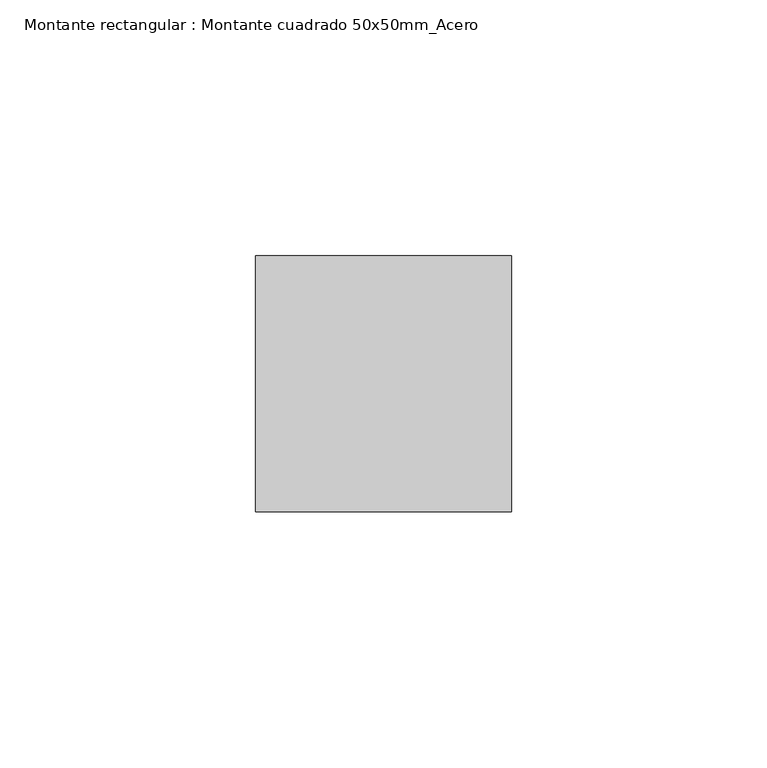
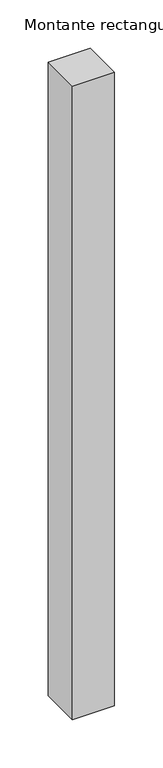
"""IFC4 building model written with IfcOpenShell, lengths in millimetres: member geometry, Montante rectangular : Montante cuadrado 50x50mm_Acero."""

from ifc_helpers import new_model, si_unit, frame, origin, place, context, project, spatial, polyline, outline, extrude, source, transform, mapped, element, save


def montante_rectangular_montante_cuadrado_50x50mm_acero_05cd54b4(model_context):
    return source(origin(), model_context, "Body", "SweptSolid", [
        extrude(outline(polyline([(-50.0, 0.0), (0.0, 0.0), (0.0, -50.0), (-50.0, -50.0), (-50.0, 0.0)])), frame((0.0, 0.0, -800.0), z_axis=(0.0, 0.0, 1.0), x_axis=(1.0, 0.0, 0.0)), (0.0, 0.0, 1.0), 800.0),
    ])


if __name__ == "__main__":
    model = new_model("IFC4")
    model_context = context("Model", 3, world=origin())
    ifc_project = project(units=[si_unit("LENGTHUNIT", "METRE", prefix="MILLI")], contexts=[model_context])
    site = spatial("IfcSite", under=ifc_project)
    building = spatial("IfcBuilding", under=site)
    placement = place(None, origin())
    montante_rectangular_montante_cuadrado_50x50mm_acero_shape = montante_rectangular_montante_cuadrado_50x50mm_acero_05cd54b4(model_context)
    element("IfcMember", 1, ObjectType="Montante rectangular : Montante cuadrado 50x50mm_Acero", at=placement, inside=building, context=model_context, shape_type="MappedRepresentation", body=[
        mapped(montante_rectangular_montante_cuadrado_50x50mm_acero_shape, transform((0.0, 0.0, 0.0), x_axis=(1.0, 0.0, 0.0), y_axis=(0.0, 1.0, 0.0), z_axis=(0.0, 0.0, 1.0))),
    ])
    save(model, "model.ifc")
